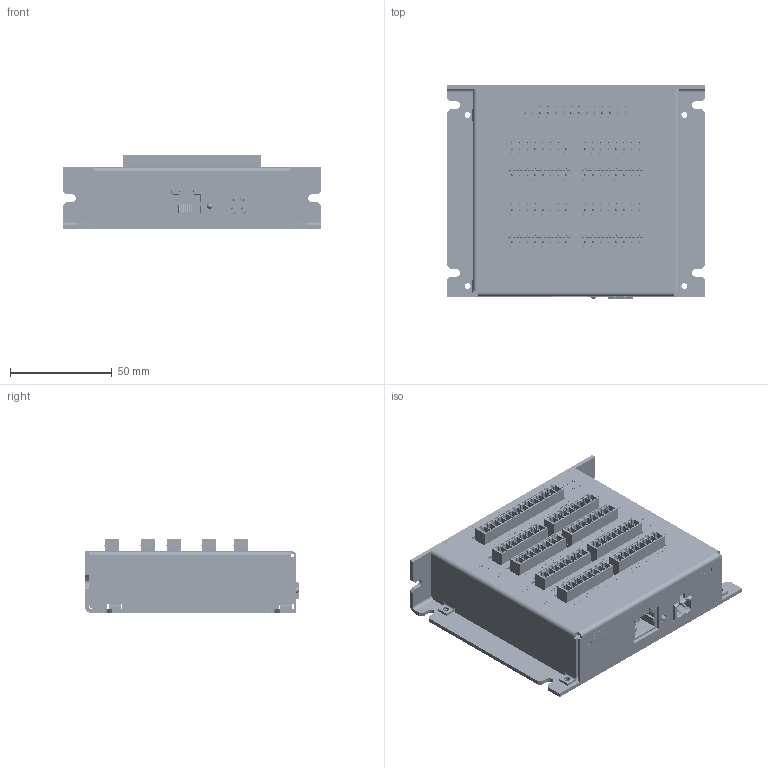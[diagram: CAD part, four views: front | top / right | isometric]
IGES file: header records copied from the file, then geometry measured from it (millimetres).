
Start section: SolidWorks IGES file using analytic representation for surfaces
Global section: file name: C:\Users\IEUser\Documents\Christine folder\Arcus\Project #26 PMX Drawings\PMX-4ET-SA-TBS\PMX-4ET-SA-TBS.IGS; native system: SolidWorks 2008; preprocessor: SolidWorks 2008; author: IEUser; date: 140718.214331; units: inch
Bounding box: 127 x 105.41 x 36.71 mm (x, y, z)
Surface area: 134354.2 mm2 (no closed solid volume)
Topology: 0 solids, 0 shells, 10302 faces, 75392 edges, 75261 vertices
Faces by surface type: bspline 9077, revolution 1225
